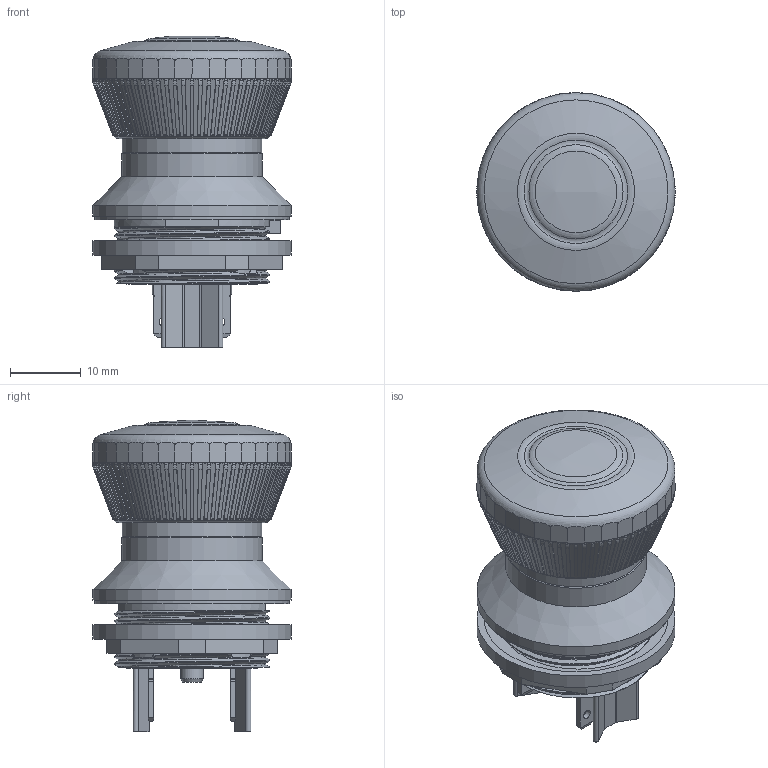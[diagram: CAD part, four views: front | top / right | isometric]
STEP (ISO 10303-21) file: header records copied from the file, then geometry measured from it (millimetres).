
FILE_DESCRIPTION(/* description */ (''),/* implementation_level */ '2;1');
FILE_NAME(/* name */ 'FRPVKOO_vereinfacht.stp',/* time_stamp */ '2024-07-01T13:44:13+02:00',/* author */ ('Sz'),/* organization */ (''),/* preprocessor_version */ 'ST-DEVELOPER v19.2',/* originating_system */ 'Autodesk Inventor 2023',/* authorisation */ '');
FILE_SCHEMA (('AUTOMOTIVE_DESIGN { 1 0 10303 214 3 1 1 }'));
Length unit declared in the file: centimetre
Products named in the file (1): Bauteil3697
Bounding box: 28 x 28 x 44 mm (x, y, z)
Volume: 15864.4 mm3; surface area: 6373.9 mm2
Topology: 1 solids, 1 shells, 971 faces, 2645 edges, 1671 vertices
Faces by surface type: plane 454, torus 221, cylinder 181, cone 83, bspline 30, sphere 2
Full cylindrical faces by diameter (mm): 1 x3, 1.3 x4, 3.2 x3, 18.5 x1, 19.65 x1, 19.85 x1, 20.92 x1, 22 x1, 26 x1, 27.4 x1, 28 x2
Entity records: 38039 total; most frequent: CARTESIAN_POINT 13959, ORIENTED_EDGE 5290, DIRECTION 4444, EDGE_CURVE 2645, AXIS2_PLACEMENT_3D 1800, VERTEX_POINT 1671, EDGE_LOOP 1012, STYLED_ITEM 972
